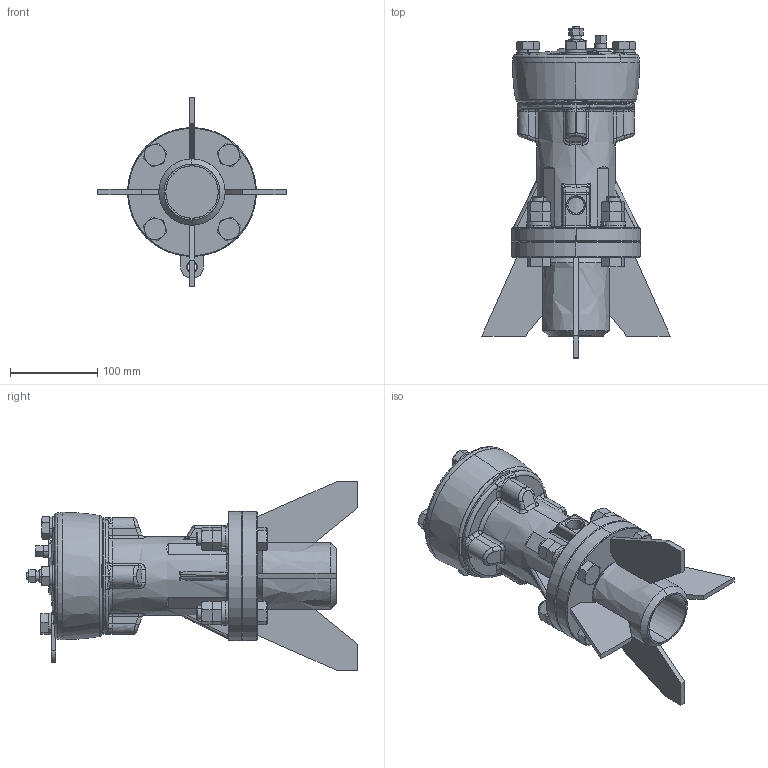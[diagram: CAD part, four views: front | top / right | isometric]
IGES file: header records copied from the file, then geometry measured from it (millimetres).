
Start section: SolidWorks IGES file using analytic representation for surfaces
Global section: file name: V:\WORK\08133\HP 寸法図\knocker\RKV80PAR\test_F580000-000 RKV80PAR_defeature.IGS,15; native system: HSolidWorks 2018; preprocessor: SolidWorks 2018; author: n-udagawa; date: 230117.091137; units: millimetre
Bounding box: 216 x 380.6 x 216 mm (x, y, z)
Surface area: 253925.3 mm2 (no closed solid volume)
Topology: 0 solids, 0 shells, 765 faces, 11983 edges, 13820 vertices
Faces by surface type: bspline 479, revolution 286
